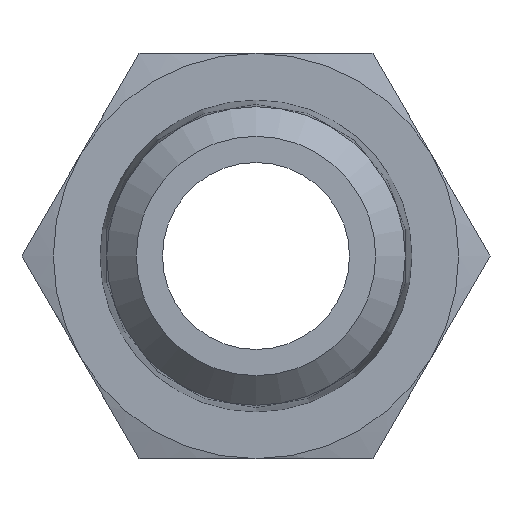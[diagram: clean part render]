
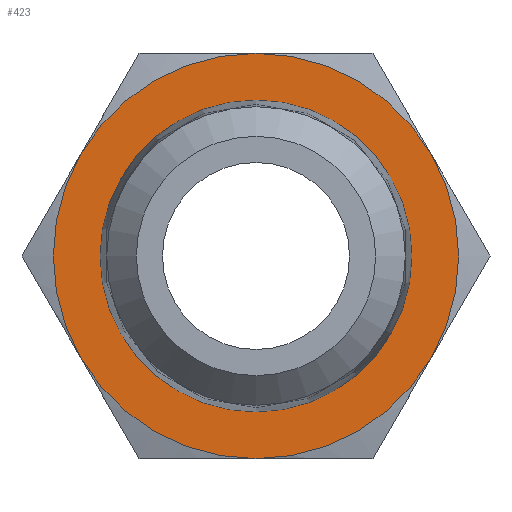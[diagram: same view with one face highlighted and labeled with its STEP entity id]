
A CAD part, left-side view. The second image highlights one B-rep face of the part: STEP entity #423.
In plain terms, the highlighted planar face has unit normal (-1, 0, 0).
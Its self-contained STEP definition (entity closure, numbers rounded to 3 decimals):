
#38=PLANE('',#485);
#47=CIRCLE('',#453,6.5);
#48=CIRCLE('',#455,6.5);
#49=CIRCLE('',#457,6.5);
#50=CIRCLE('',#459,6.5);
#51=CIRCLE('',#461,6.5);
#52=CIRCLE('',#463,6.5);
#63=CIRCLE('',#484,5.);
#116=ORIENTED_EDGE('',*,*,#186,.F.);
#117=ORIENTED_EDGE('',*,*,#193,.F.);
#118=ORIENTED_EDGE('',*,*,#199,.F.);
#119=ORIENTED_EDGE('',*,*,#195,.F.);
#120=ORIENTED_EDGE('',*,*,#189,.F.);
#121=ORIENTED_EDGE('',*,*,#183,.F.);
#122=ORIENTED_EDGE('',*,*,#222,.T.);
#183=EDGE_CURVE('',#237,#239,#47,.T.);
#186=EDGE_CURVE('',#240,#237,#48,.T.);
#189=EDGE_CURVE('',#239,#243,#49,.T.);
#193=EDGE_CURVE('',#245,#240,#50,.T.);
#195=EDGE_CURVE('',#243,#247,#51,.T.);
#199=EDGE_CURVE('',#247,#245,#52,.T.);
#222=EDGE_CURVE('',#265,#265,#63,.T.);
#237=VERTEX_POINT('',#637);
#239=VERTEX_POINT('',#640);
#240=VERTEX_POINT('',#650);
#243=VERTEX_POINT('',#664);
#245=VERTEX_POINT('',#679);
#247=VERTEX_POINT('',#688);
#265=VERTEX_POINT('',#789);
#318=EDGE_LOOP('',(#116,#117,#118,#119,#120,#121));
#319=EDGE_LOOP('',(#122));
#364=FACE_BOUND('',#318,.T.);
#365=FACE_BOUND('',#319,.T.);
#423=ADVANCED_FACE('',(#364,#365),#38,.F.);
#453=AXIS2_PLACEMENT_3D('',#639,#513,#514);
#455=AXIS2_PLACEMENT_3D('',#652,#517,#518);
#457=AXIS2_PLACEMENT_3D('',#663,#521,#522);
#459=AXIS2_PLACEMENT_3D('',#680,#525,#526);
#461=AXIS2_PLACEMENT_3D('',#687,#529,#530);
#463=AXIS2_PLACEMENT_3D('',#703,#533,#534);
#484=AXIS2_PLACEMENT_3D('',#788,#575,#576);
#485=AXIS2_PLACEMENT_3D('',#790,#577,#578);
#513=DIRECTION('',(1.,0.,0.));
#514=DIRECTION('',(0.,0.,-1.));
#517=DIRECTION('',(1.,0.,0.));
#518=DIRECTION('',(0.,0.,-1.));
#521=DIRECTION('',(1.,0.,0.));
#522=DIRECTION('',(0.,0.,-1.));
#525=DIRECTION('',(1.,0.,0.));
#526=DIRECTION('',(0.,0.,-1.));
#529=DIRECTION('',(1.,0.,0.));
#530=DIRECTION('',(0.,0.,-1.));
#533=DIRECTION('',(1.,0.,0.));
#534=DIRECTION('',(0.,0.,-1.));
#575=DIRECTION('',(1.,0.,0.));
#576=DIRECTION('',(0.,0.,-1.));
#577=DIRECTION('',(1.,0.,0.));
#578=DIRECTION('',(0.,0.,-1.));
#637=CARTESIAN_POINT('',(9.106,5.629,3.25));
#639=CARTESIAN_POINT('',(9.106,0.,0.));
#640=CARTESIAN_POINT('',(9.106,0.,6.5));
#650=CARTESIAN_POINT('',(9.106,5.629,-3.25));
#652=CARTESIAN_POINT('',(9.106,0.,0.));
#663=CARTESIAN_POINT('',(9.106,0.,0.));
#664=CARTESIAN_POINT('',(9.106,-5.629,3.25));
#679=CARTESIAN_POINT('',(9.106,0.,-6.5));
#680=CARTESIAN_POINT('',(9.106,0.,0.));
#687=CARTESIAN_POINT('',(9.106,0.,0.));
#688=CARTESIAN_POINT('',(9.106,-5.629,-3.25));
#703=CARTESIAN_POINT('',(9.106,0.,0.));
#788=CARTESIAN_POINT('',(9.106,0.,0.));
#789=CARTESIAN_POINT('',(9.106,0.,-5.));
#790=CARTESIAN_POINT('',(9.106,5.,0.));
